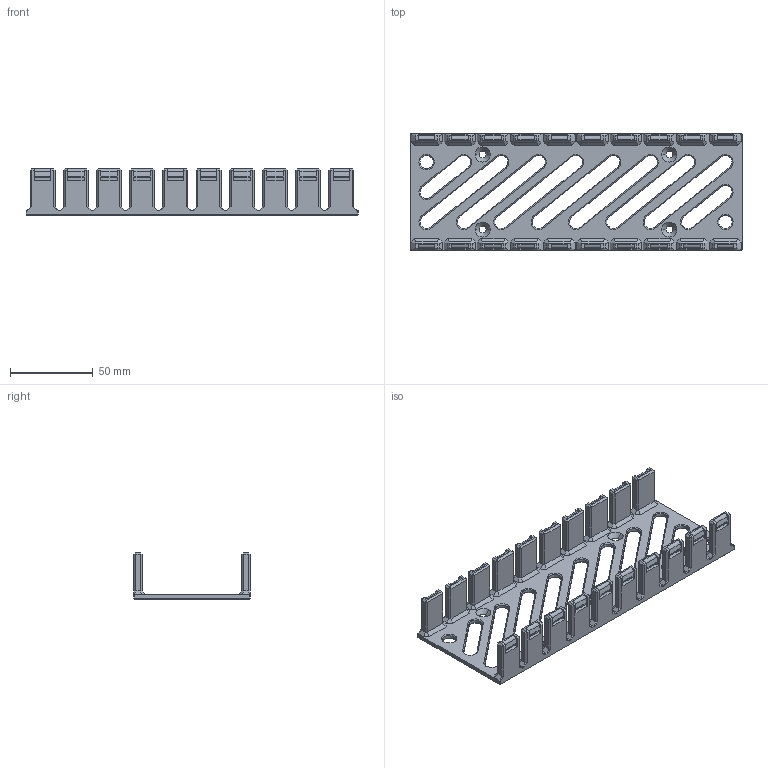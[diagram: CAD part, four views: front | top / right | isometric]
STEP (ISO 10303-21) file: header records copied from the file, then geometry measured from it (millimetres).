
FILE_DESCRIPTION (( 'STEP AP203' ), '1' );
FILE_NAME ('tray--screwMount--25mm.STEP', '2024-02-16T02:44:48', ( '' ), ( '' ), 'SwSTEP 2.0', 'SolidWorks 2020', '' );
FILE_SCHEMA (( 'CONFIG_CONTROL_DESIGN' ));
Length unit declared in the file: millimetre
Products named in the file (1): tray--screwMount--25mm
Bounding box: 200 x 70 x 28 mm (x, y, z)
Volume: 63793.1 mm3; surface area: 42454.1 mm2
Topology: 1 solids, 1 shells, 817 faces, 1988 edges, 1173 vertices
Faces by surface type: plane 688, cone 70, cylinder 59
Entity records: 23140 total; most frequent: CARTESIAN_POINT 3979, ORIENTED_EDGE 3976, DIRECTION 3821, EDGE_CURVE 1988, LINE 1791, VECTOR 1791, VERTEX_POINT 1173, AXIS2_PLACEMENT_3D 1015
